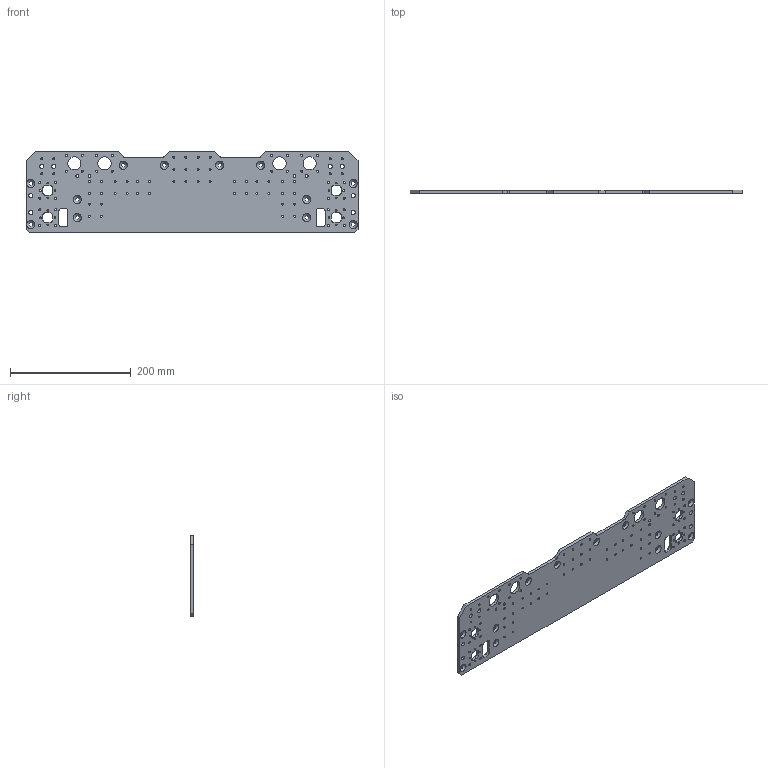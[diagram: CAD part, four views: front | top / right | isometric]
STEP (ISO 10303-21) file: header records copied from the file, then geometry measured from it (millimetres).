
FILE_DESCRIPTION(/* description */ ('x_motor_plate_2'),/* implementation_level */ '2;1');
FILE_NAME(/* name */ '06_x_motor_plate_2_x1.step',/* time_stamp */ '2026-10-27T16:17:51+01:00',/* author */ (''),/* organization */ (''),/* preprocessor_version */ 'ST-DEVELOPER v20.2',/* originating_system */ 'Autodesk Translation Framework v15.17.0.0',/* authorisation */ '');
FILE_SCHEMA (('AUTOMOTIVE_DESIGN { 1 0 10303 214 3 1 1 }'));
Length unit declared in the file: millimetre
Products named in the file (1): 2026-10-27-16-17-51-455
Bounding box: 550 x 5 x 135 mm (x, y, z)
Volume: 335571 mm3; surface area: 152414.7 mm2
Topology: 1 solids, 1 shells, 210 faces, 624 edges, 416 vertices
Faces by surface type: cylinder 156, plane 42, cone 12
Full cylindrical faces by diameter (mm): 2.459 x16, 3.4 x84, 4.5 x4, 6.4 x4, 6.6 x12, 6.917 x4, 22 x4
Entity records: 8017 total; most frequent: DIRECTION 1382, CARTESIAN_POINT 1251, ORIENTED_EDGE 1248, EDGE_CURVE 624, AXIS2_PLACEMENT_3D 547, EDGE_LOOP 478, VERTEX_POINT 416, CIRCLE 336
